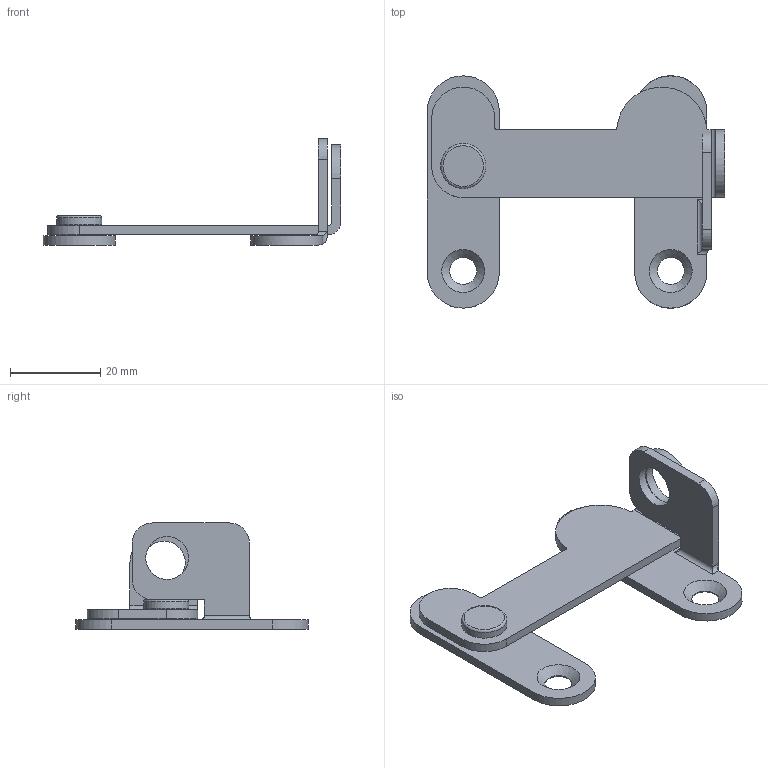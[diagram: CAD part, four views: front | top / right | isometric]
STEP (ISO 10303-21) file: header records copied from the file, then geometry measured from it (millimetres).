
FILE_DESCRIPTION(/* description */ (''),/* implementation_level */ '2;1');
FILE_NAME(/* name */ '\\NAS\db20\GS2-5\DR_GS2-5.stp',/* time_stamp */ '2017-08-31T11:12:53+09:00',/* author */ ('user'),/* organization */ (''),/* preprocessor_version */ 'ST-DEVELOPER v15.6',/* originating_system */ 'Autodesk Inventor 2015',/* authorisation */ '');
FILE_SCHEMA (('AUTOMOTIVE_DESIGN { 1 0 10303 214 3 1 1 }'));
Length unit declared in the file: millimetre
Products named in the file (4): DR_GS2-5B; DR_GS2-5B1; DR_GS2-5c; DR_GS2-5
Bounding box: 66 x 51.5 x 23.5 mm (x, y, z)
Volume: 6570.9 mm3; surface area: 7979.7 mm2
Topology: 4 solids, 4 shells, 64 faces, 159 edges, 104 vertices
Faces by surface type: cylinder 31, plane 28, cone 4, torus 1
Full cylindrical faces by diameter (mm): 3 x1, 6 x5, 9.5 x2, 10 x1
Entity records: 1954 total; most frequent: CARTESIAN_POINT 346, DIRECTION 337, ORIENTED_EDGE 280, EDGE_CURVE 140, AXIS2_PLACEMENT_3D 130, VERTEX_POINT 99, EDGE_LOOP 93, LINE 77
